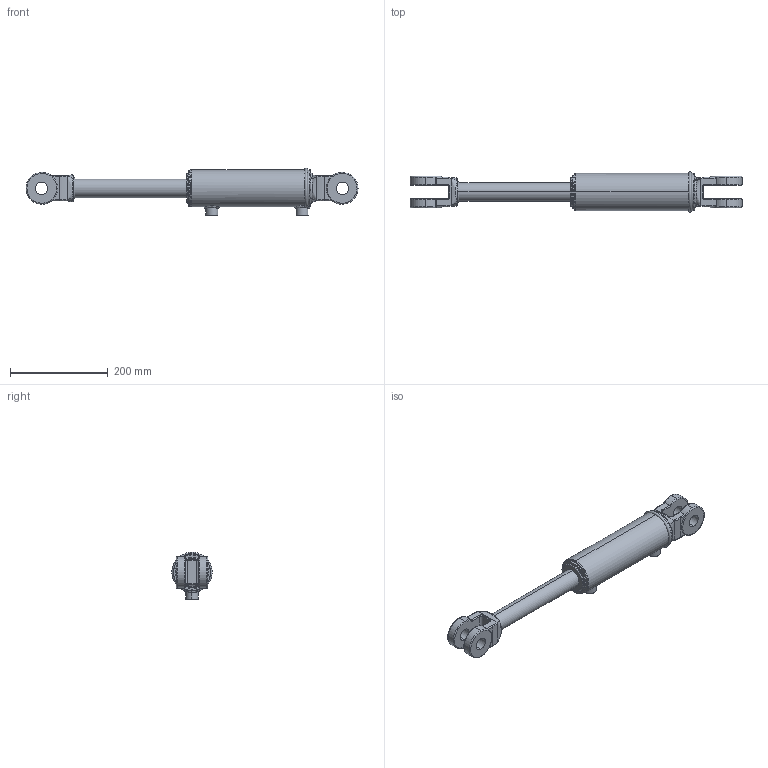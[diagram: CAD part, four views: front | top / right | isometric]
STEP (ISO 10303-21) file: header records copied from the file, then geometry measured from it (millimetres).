
FILE_DESCRIPTION (( 'STEP AP203' ), '1' );
FILE_NAME ('CL-CL250150x152 (6) extended.STEP', '2014-12-18T16:34:43', ( '' ), ( '' ), 'SwSTEP 2.0', 'SolidWorks 2015', '' );
FILE_SCHEMA (( 'CONFIG_CONTROL_DESIGN' ));
Length unit declared in the file: millimetre
Products named in the file (4): CL-CL250150x152 (6) body; 2.5 inch ext circlip; SPARE 6; CL-CL250150x152 (6) extended
Assembly tree (3 placements, depth 2):
  CL-CL250150x152 (6) extended
    CL-CL250150x152 (6) body
    2.5 inch ext circlip
    SPARE 6
Bounding box: 678.39 x 82.16 x 97.19 mm (x, y, z)
Volume: 1650543.5 mm3; surface area: 185299.6 mm2
Topology: 3 solids, 3 shells, 210 faces, 512 edges, 315 vertices
Faces by surface type: cylinder 91, bspline 59, plane 37, torus 15, cone 8
Entity records: 11274 total; most frequent: CARTESIAN_POINT 6220, ORIENTED_EDGE 1016, DIRECTION 939, EDGE_CURVE 508, AXIS2_PLACEMENT_3D 392, VERTEX_POINT 315, CIRCLE 235, EDGE_LOOP 233
